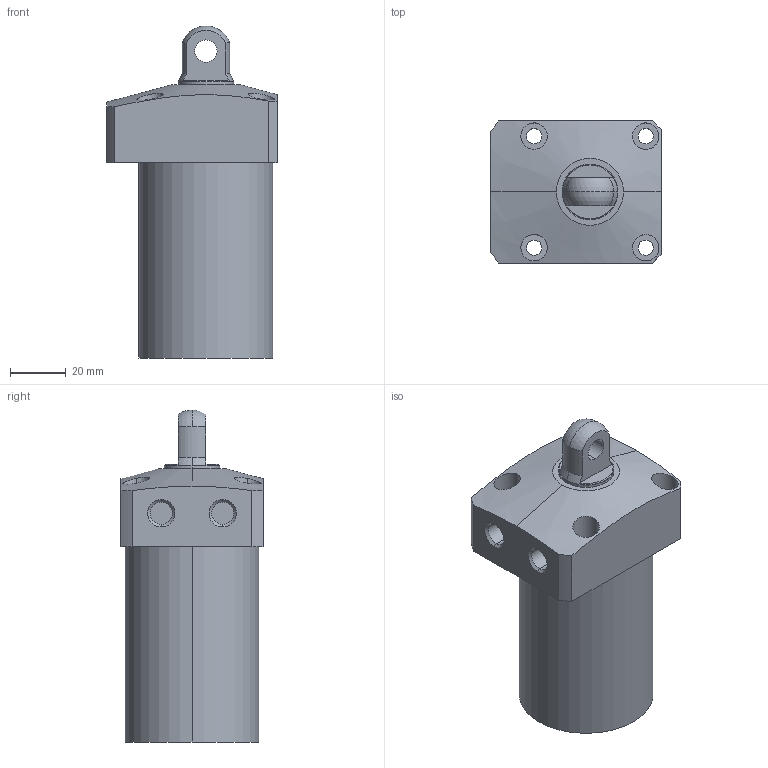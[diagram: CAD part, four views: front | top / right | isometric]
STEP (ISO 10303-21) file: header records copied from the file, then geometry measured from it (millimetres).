
FILE_DESCRIPTION (( 'STEP AP203' ), '1' );
FILE_NAME ('CLL-0480-CP-060.STEP', '2017-05-09T02:52:30', ( '' ), ( '' ), 'SwSTEP 2.0', 'SolidWorks 2015', '' );
FILE_SCHEMA (( 'CONFIG_CONTROL_DESIGN' ));
Length unit declared in the file: millimetre
Products named in the file (1): CLL-0480-CP-060
Bounding box: 61 x 51 x 119 mm (x, y, z)
Volume: 202339.5 mm3; surface area: 25243.7 mm2
Topology: 1 solids, 1 shells, 67 faces, 157 edges, 103 vertices
Faces by surface type: cylinder 35, plane 22, cone 8, sphere 2
Entity records: 2360 total; most frequent: CARTESIAN_POINT 682, DIRECTION 351, ORIENTED_EDGE 314, EDGE_CURVE 157, AXIS2_PLACEMENT_3D 146, VERTEX_POINT 103, EDGE_LOOP 88, CIRCLE 78
